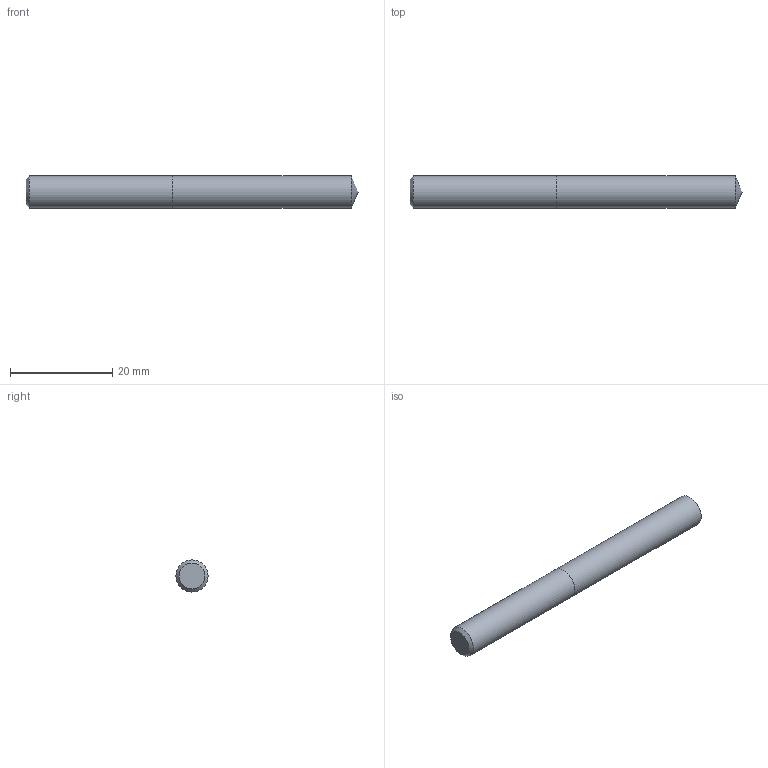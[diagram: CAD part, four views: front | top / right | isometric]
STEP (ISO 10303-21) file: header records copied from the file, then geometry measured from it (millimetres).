
FILE_DESCRIPTION (( 'STEP AP214' ), '1' );
FILE_NAME ('03-2320.STEP', '2022-06-03T06:10:16', ( 'USER' ), ( '' ), 'SwSTEP 2.0', 'SolidWorks 2018', '' );
FILE_SCHEMA (( 'AUTOMOTIVE_DESIGN' ));
Length unit declared in the file: inch
Products named in the file (1): 03-2320
Bounding box: 64.79 x 6.25 x 6.25 mm (x, y, z)
Volume: 1956.8 mm3; surface area: 1364 mm2
Topology: 2 solids, 2 shells, 7 faces, 11 edges, 7 vertices
Faces by surface type: plane 3, cylinder 2, cone 2
Full cylindrical faces by diameter (mm): 6.248 x2
Entity records: 214 total; most frequent: DIRECTION 26, CARTESIAN_POINT 18, AXIS2_PLACEMENT_3D 13, ORIENTED_EDGE 10, EDGE_LOOP 10, FACE_OUTER_BOUND 9, DIMENSIONAL_EXPONENTS 7, ADVANCED_FACE 7
